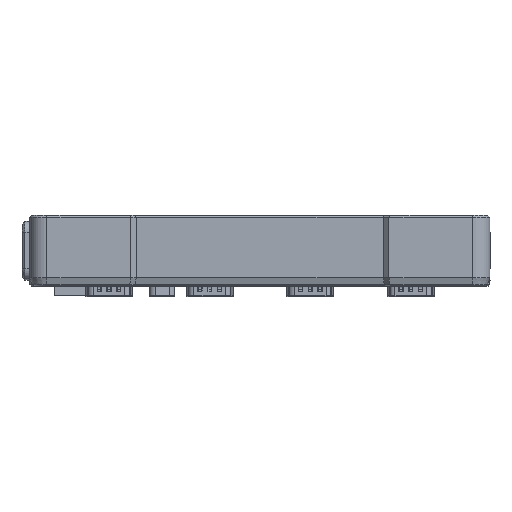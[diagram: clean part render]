
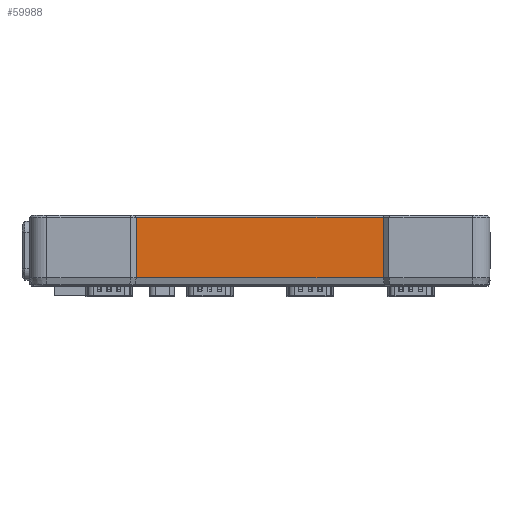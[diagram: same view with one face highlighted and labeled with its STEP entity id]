
A CAD part, left-side view. The second image highlights one B-rep face of the part: STEP entity #59988.
In plain terms, the highlighted planar face has unit normal (-1, 0, 0).
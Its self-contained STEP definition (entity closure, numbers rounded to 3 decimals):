
#10599=FACE_OUTER_BOUND('',#14427,.T.);
#14427=EDGE_LOOP('',(#53046,#53047,#53048,#53049));
#18202=LINE('',#153361,#22321);
#18385=LINE('',#153755,#22504);
#18386=LINE('',#153756,#22505);
#18387=LINE('',#153757,#22506);
#22321=VECTOR('',#78727,10.);
#22504=VECTOR('',#79114,10.);
#22505=VECTOR('',#79115,10.);
#22506=VECTOR('',#79116,10.);
#28007=VERTEX_POINT('',#153244);
#28043=VERTEX_POINT('',#153359);
#28133=VERTEX_POINT('',#153672);
#28152=VERTEX_POINT('',#153754);
#36405=EDGE_CURVE('',#28043,#28007,#18202,.T.);
#36602=EDGE_CURVE('',#28007,#28152,#18385,.T.);
#36603=EDGE_CURVE('',#28133,#28043,#18386,.T.);
#36604=EDGE_CURVE('',#28133,#28152,#18387,.T.);
#53046=ORIENTED_EDGE('',*,*,#36602,.F.);
#53047=ORIENTED_EDGE('',*,*,#36405,.F.);
#53048=ORIENTED_EDGE('',*,*,#36603,.F.);
#53049=ORIENTED_EDGE('',*,*,#36604,.T.);
#56708=PLANE('',#65329);
#59988=ADVANCED_FACE('',(#10599),#56708,.T.);
#65329=AXIS2_PLACEMENT_3D('',#153753,#79112,#79113);
#78727=DIRECTION('',(0.,0.,-1.));
#79112=DIRECTION('center_axis',(-1.,0.,0.));
#79113=DIRECTION('ref_axis',(0.,1.,0.));
#79114=DIRECTION('',(0.,1.,0.));
#79115=DIRECTION('',(0.,-1.,0.));
#79116=DIRECTION('',(0.,0.,-1.));
#153244=CARTESIAN_POINT('',(154.86,115.566,20.784));
#153359=CARTESIAN_POINT('',(154.86,115.566,42.334));
#153361=CARTESIAN_POINT('',(154.86,115.566,43.134));
#153672=CARTESIAN_POINT('',(154.86,203.966,42.334));
#153753=CARTESIAN_POINT('Origin',(154.86,151.566,43.134));
#153754=CARTESIAN_POINT('',(154.86,203.966,20.784));
#153755=CARTESIAN_POINT('',(154.86,164.666,20.784));
#153756=CARTESIAN_POINT('',(154.86,164.666,42.334));
#153757=CARTESIAN_POINT('',(154.86,203.966,43.134));
